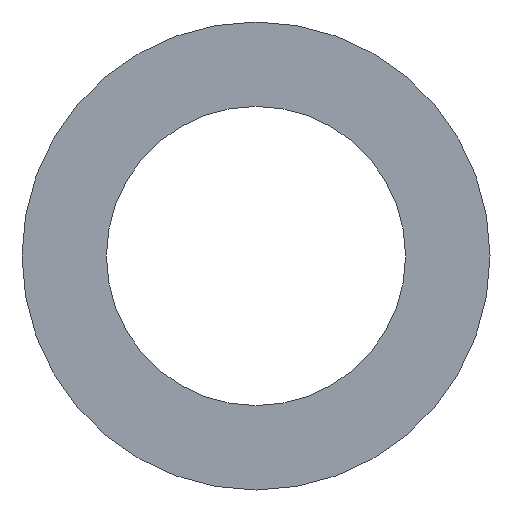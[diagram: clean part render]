
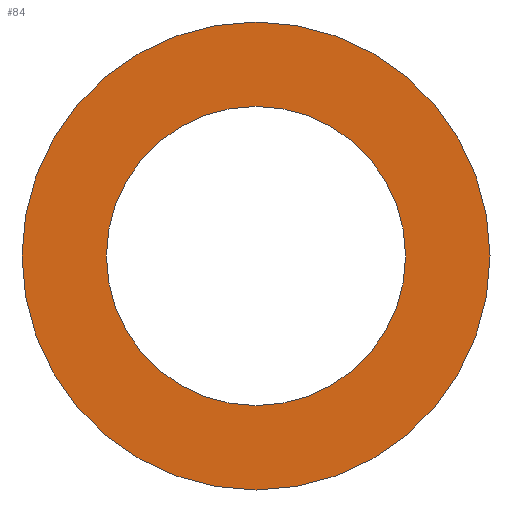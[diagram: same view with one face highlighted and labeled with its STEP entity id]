
A CAD part, left-side view. The second image highlights one B-rep face of the part: STEP entity #84.
In plain terms, the highlighted planar face has unit normal (-1, 0, 0).
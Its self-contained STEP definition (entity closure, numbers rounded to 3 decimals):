
#84 = ADVANCED_FACE( '', ( #107, #108 ), #109, .T. );
#107 = FACE_BOUND( '', #132, .T. );
#108 = FACE_OUTER_BOUND( '', #133, .T. );
#109 = PLANE( '', #134 );
#132 = EDGE_LOOP( '', ( #200, #201 ) );
#133 = EDGE_LOOP( '', ( #202, #203 ) );
#134 = AXIS2_PLACEMENT_3D( '', #204, #205, #206 );
#200 = ORIENTED_EDGE( '', *, *, #235, .F. );
#201 = ORIENTED_EDGE( '', *, *, #217, .F. );
#202 = ORIENTED_EDGE( '', *, *, #221, .T. );
#203 = ORIENTED_EDGE( '', *, *, #234, .T. );
#204 = CARTESIAN_POINT( '', ( -132., 131.15, 0. ) );
#205 = DIRECTION( '', ( -1., 0., 0. ) );
#206 = DIRECTION( '', ( 0., 1., 0. ) );
#217 = EDGE_CURVE( '', #241, #237, #243, .T. );
#221 = EDGE_CURVE( '', #245, #249, #251, .T. );
#234 = EDGE_CURVE( '', #249, #245, #270, .T. );
#235 = EDGE_CURVE( '', #237, #241, #271, .T. );
#237 = VERTEX_POINT( '', #273 );
#241 = VERTEX_POINT( '', #278 );
#243 = CIRCLE( '', #281, 102.3 );
#245 = VERTEX_POINT( '', #283 );
#249 = VERTEX_POINT( '', #288 );
#251 = CIRCLE( '', #291, 160. );
#270 = CIRCLE( '', #314, 160. );
#271 = CIRCLE( '', #315, 102.3 );
#273 = CARTESIAN_POINT( '', ( -132., 102.3, 0. ) );
#278 = CARTESIAN_POINT( '', ( -132., -102.3, 0. ) );
#281 = AXIS2_PLACEMENT_3D( '', #321, #322, #323 );
#283 = CARTESIAN_POINT( '', ( -132., 160., 0. ) );
#288 = CARTESIAN_POINT( '', ( -132., -160., 0. ) );
#291 = AXIS2_PLACEMENT_3D( '', #329, #330, #331 );
#314 = AXIS2_PLACEMENT_3D( '', #360, #361, #362 );
#315 = AXIS2_PLACEMENT_3D( '', #363, #364, #365 );
#321 = CARTESIAN_POINT( '', ( -132., 0., 0. ) );
#322 = DIRECTION( '', ( -1., 0., 0. ) );
#323 = DIRECTION( '', ( 0., 1., 0. ) );
#329 = CARTESIAN_POINT( '', ( -132., 0., 0. ) );
#330 = DIRECTION( '', ( -1., 0., 0. ) );
#331 = DIRECTION( '', ( 0., 1., 0. ) );
#360 = CARTESIAN_POINT( '', ( -132., 0., 0. ) );
#361 = DIRECTION( '', ( -1., 0., 0. ) );
#362 = DIRECTION( '', ( 0., 1., 0. ) );
#363 = CARTESIAN_POINT( '', ( -132., 0., 0. ) );
#364 = DIRECTION( '', ( -1., 0., 0. ) );
#365 = DIRECTION( '', ( 0., 1., 0. ) );
